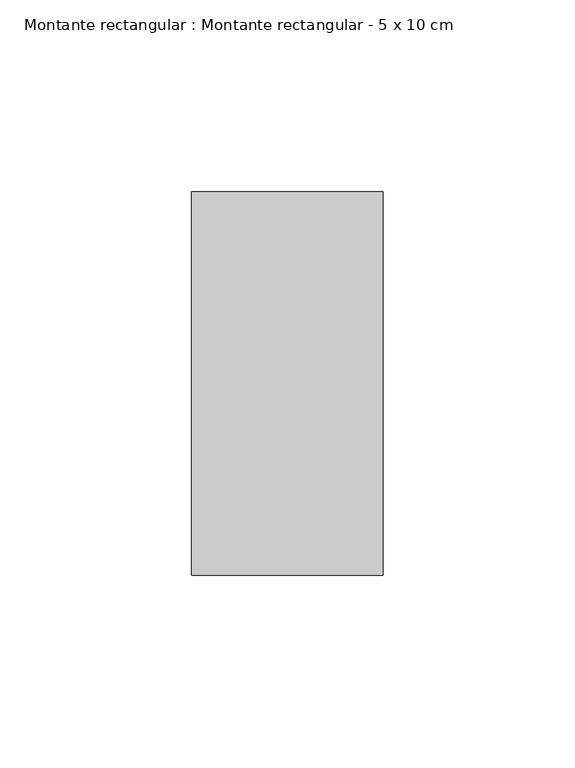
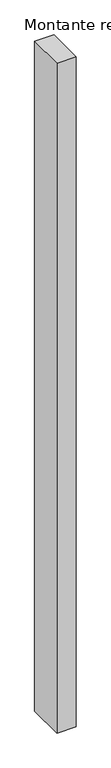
"""IFC4 building model written with IfcOpenShell, lengths in millimetres: member geometry, Montante rectangular : Montante rectangular - 5 x 10 cm."""

from ifc_helpers import new_model, si_unit, frame, origin, place, context, project, spatial, polyline, outline, extrude, source, transform, mapped, element, save


def montante_rectangular_montante_rectangular_5_x_10_cm_fa0436fd(model_context):
    return source(origin(), model_context, "Body", "SweptSolid", [
        extrude(outline(polyline([(25.0, 50.0), (25.0, -50.0), (-25.0, -50.0), (-25.0, 50.0), (25.0, 50.0)])), frame((0.0, 0.0, -1850.0), z_axis=(0.0, 0.0, 1.0), x_axis=(1.0, 0.0, 0.0)), (0.0, 0.0, 1.0), 1850.0),
    ])


if __name__ == "__main__":
    model = new_model("IFC4")
    model_context = context("Model", 3, world=origin())
    ifc_project = project(units=[si_unit("LENGTHUNIT", "METRE", prefix="MILLI")], contexts=[model_context])
    site = spatial("IfcSite", under=ifc_project)
    building = spatial("IfcBuilding", under=site)
    placement = place(None, origin())
    montante_rectangular_montante_rectangular_5_x_10_cm_shape = montante_rectangular_montante_rectangular_5_x_10_cm_fa0436fd(model_context)
    element("IfcMember", 1, ObjectType="Montante rectangular : Montante rectangular - 5 x 10 cm", at=placement, inside=building, context=model_context, shape_type="MappedRepresentation", body=[
        mapped(montante_rectangular_montante_rectangular_5_x_10_cm_shape, transform((0.0, 0.0, 0.0), x_axis=(1.0, 0.0, 0.0), y_axis=(0.0, 1.0, 0.0), z_axis=(0.0, 0.0, 1.0))),
    ])
    save(model, "model.ifc")
